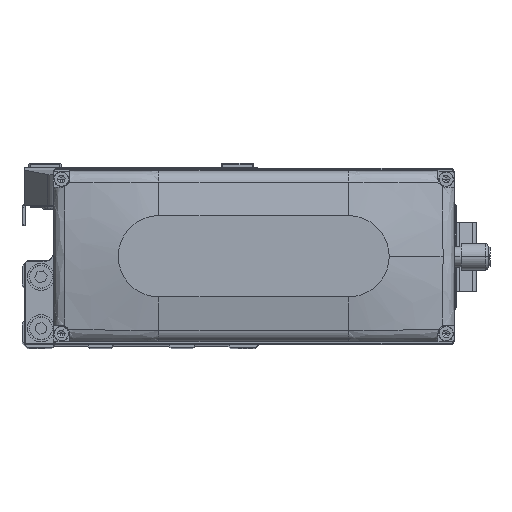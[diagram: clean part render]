
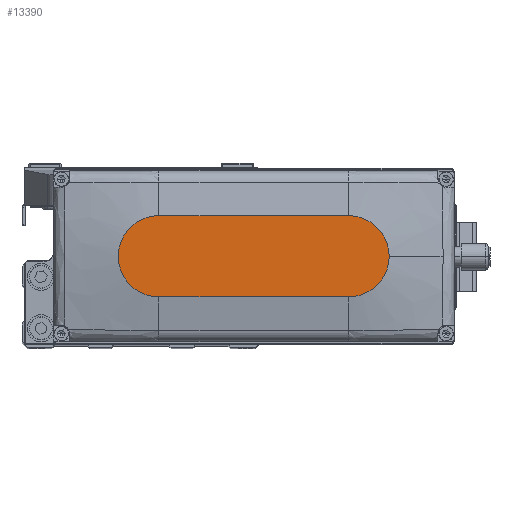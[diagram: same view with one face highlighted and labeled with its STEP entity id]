
A CAD part, top view. The second image highlights one B-rep face of the part: STEP entity #13390.
In plain terms, the highlighted planar face has unit normal (0, 0, 1).
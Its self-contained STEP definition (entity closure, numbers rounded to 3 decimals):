
#248 = EDGE_CURVE ( 'NONE', #41457, #16150, #14814, .T. ) ;
#465 = CARTESIAN_POINT ( 'NONE',  ( -35., 15., 35. ) ) ;
#2322 = ORIENTED_EDGE ( 'NONE', *, *, #44744, .T. ) ;
#4073 = DIRECTION ( 'NONE',  ( 1., 0., 0. ) ) ;
#4088 = LINE ( 'NONE', #18296, #9789 ) ;
#7412 = CARTESIAN_POINT ( 'NONE',  ( 0., 0., 35. ) ) ;
#8082 = VERTEX_POINT ( 'NONE', #38291 ) ;
#8658 = DIRECTION ( 'NONE',  ( 0., 0., 1. ) ) ;
#9789 = VECTOR ( 'NONE', #32502, 1000. ) ;
#10389 = CIRCLE ( 'NONE', #36461, 15. ) ;
#11864 = AXIS2_PLACEMENT_3D ( 'NONE', #44415, #12488, #26686 ) ;
#12488 = DIRECTION ( 'NONE',  ( 0., 0., 1. ) ) ;
#12600 = LINE ( 'NONE', #26799, #18901 ) ;
#13390 = ADVANCED_FACE ( 'NONE', ( #25106 ), #39330, .T. ) ;
#14814 = CIRCLE ( 'NONE', #20753, 15. ) ;
#16150 = VERTEX_POINT ( 'NONE', #42733 ) ;
#18296 = CARTESIAN_POINT ( 'NONE',  ( -35., 15., 35. ) ) ;
#18901 = VECTOR ( 'NONE', #41031, 1000. ) ;
#20702 = VERTEX_POINT ( 'NONE', #44592 ) ;
#20753 = AXIS2_PLACEMENT_3D ( 'NONE', #21764, #36004, #4073 ) ;
#20869 = ORIENTED_EDGE ( 'NONE', *, *, #36356, .T. ) ;
#21612 = DIRECTION ( 'NONE',  ( 0., 0., 1. ) ) ;
#21764 = CARTESIAN_POINT ( 'NONE',  ( -35., 0., 35. ) ) ;
#22861 = DIRECTION ( 'NONE',  ( 1., 0., 0. ) ) ;
#25106 = FACE_OUTER_BOUND ( 'NONE', #36448, .T. ) ;
#25424 = ORIENTED_EDGE ( 'NONE', *, *, #248, .T. ) ;
#25740 = EDGE_CURVE ( 'NONE', #16150, #31258, #12600, .T. ) ;
#26686 = DIRECTION ( 'NONE',  ( 1., 0., 0. ) ) ;
#26799 = CARTESIAN_POINT ( 'NONE',  ( -35., -15., 35. ) ) ;
#27454 = AXIS2_PLACEMENT_3D ( 'NONE', #7412, #21612, #35850 ) ;
#29671 = ORIENTED_EDGE ( 'NONE', *, *, #25740, .T. ) ;
#31258 = VERTEX_POINT ( 'NONE', #34000 ) ;
#31946 = CIRCLE ( 'NONE', #11864, 15. ) ;
#32502 = DIRECTION ( 'NONE',  ( -1., 0., 0. ) ) ;
#34000 = CARTESIAN_POINT ( 'NONE',  ( 35., -15., 35. ) ) ;
#35850 = DIRECTION ( 'NONE',  ( 1., 0., 0. ) ) ;
#36004 = DIRECTION ( 'NONE',  ( 0., 0., 1. ) ) ;
#36109 = ORIENTED_EDGE ( 'NONE', *, *, #44410, .T. ) ;
#36356 = EDGE_CURVE ( 'NONE', #8082, #41457, #4088, .T. ) ;
#36448 = EDGE_LOOP ( 'NONE', ( #20869, #25424, #29671, #2322, #36109 ) ) ;
#36461 = AXIS2_PLACEMENT_3D ( 'NONE', #40586, #8658, #22861 ) ;
#38291 = CARTESIAN_POINT ( 'NONE',  ( 35., 15., 35. ) ) ;
#39330 = PLANE ( 'NONE',  #27454 ) ;
#40586 = CARTESIAN_POINT ( 'NONE',  ( 35., 0., 35. ) ) ;
#41031 = DIRECTION ( 'NONE',  ( 1., 0., 0. ) ) ;
#41457 = VERTEX_POINT ( 'NONE', #465 ) ;
#42733 = CARTESIAN_POINT ( 'NONE',  ( -35., -15., 35. ) ) ;
#44410 = EDGE_CURVE ( 'NONE', #20702, #8082, #31946, .T. ) ;
#44415 = CARTESIAN_POINT ( 'NONE',  ( 35., 0., 35. ) ) ;
#44592 = CARTESIAN_POINT ( 'NONE',  ( 50., 0., 35. ) ) ;
#44744 = EDGE_CURVE ( 'NONE', #31258, #20702, #10389, .T. ) ;
